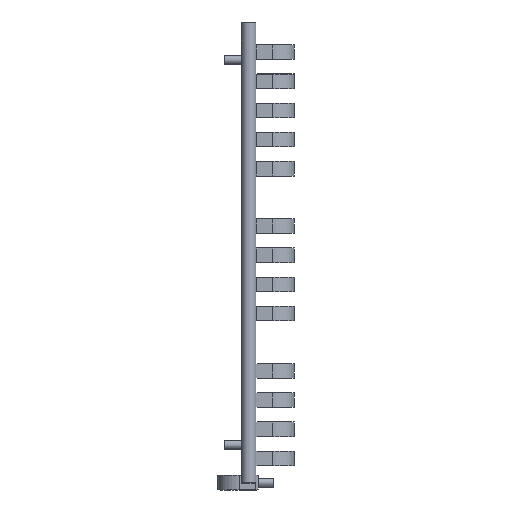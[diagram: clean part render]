
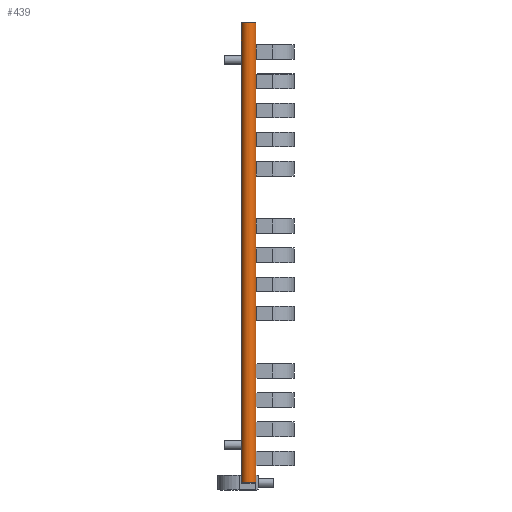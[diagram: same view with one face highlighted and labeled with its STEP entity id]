
A CAD part, left-side view. The second image highlights one B-rep face of the part: STEP entity #439.
In plain terms, the highlighted cylindrical face has radius 15 mm (diameter 30 mm), a partial arc.
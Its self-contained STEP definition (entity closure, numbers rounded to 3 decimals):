
#439 = ADVANCED_FACE( '', ( #681 ), #682, .T. );
#681 = FACE_OUTER_BOUND( '', #1070, .T. );
#682 = CYLINDRICAL_SURFACE( '', #1071, 15. );
#1070 = EDGE_LOOP( '', ( #1701, #1702, #1703, #1704 ) );
#1071 = AXIS2_PLACEMENT_3D( '', #1705, #1706, #1707 );
#1701 = ORIENTED_EDGE( '', *, *, #2892, .F. );
#1702 = ORIENTED_EDGE( '', *, *, #2749, .F. );
#1703 = ORIENTED_EDGE( '', *, *, #2893, .T. );
#1704 = ORIENTED_EDGE( '', *, *, #2739, .T. );
#1705 = CARTESIAN_POINT( '', ( 25., 15., 946. ) );
#1706 = DIRECTION( '', ( 0., 0., -1. ) );
#1707 = DIRECTION( '', ( -1., 0., 0. ) );
#2739 = EDGE_CURVE( '', #3191, #3188, #3192, .T. );
#2749 = EDGE_CURVE( '', #3209, #3205, #3211, .T. );
#2892 = EDGE_CURVE( '', #3205, #3188, #3462, .T. );
#2893 = EDGE_CURVE( '', #3209, #3191, #3463, .T. );
#3188 = VERTEX_POINT( '', #3920 );
#3191 = VERTEX_POINT( '', #3924 );
#3192 = LINE( '', #3925, #3926 );
#3205 = VERTEX_POINT( '', #3945 );
#3209 = VERTEX_POINT( '', #3951 );
#3211 = LINE( '', #3954, #3955 );
#3462 = CIRCLE( '', #4346, 15. );
#3463 = CIRCLE( '', #4347, 15. );
#3920 = CARTESIAN_POINT( '', ( 25., 0., 0. ) );
#3924 = CARTESIAN_POINT( '', ( 25., 0., 946. ) );
#3925 = CARTESIAN_POINT( '', ( 25., 0., 946. ) );
#3926 = VECTOR( '', #5059, 1000. );
#3945 = CARTESIAN_POINT( '', ( 25., 30., 0. ) );
#3951 = CARTESIAN_POINT( '', ( 25., 30., 946. ) );
#3954 = CARTESIAN_POINT( '', ( 25., 30., 946. ) );
#3955 = VECTOR( '', #5069, 1000. );
#4346 = AXIS2_PLACEMENT_3D( '', #5216, #5217, #5218 );
#4347 = AXIS2_PLACEMENT_3D( '', #5219, #5220, #5221 );
#5059 = DIRECTION( '', ( 0., 0., -1. ) );
#5069 = DIRECTION( '', ( 0., 0., -1. ) );
#5216 = CARTESIAN_POINT( '', ( 25., 15., 0. ) );
#5217 = DIRECTION( '', ( 0., 0., -1. ) );
#5218 = DIRECTION( '', ( -1., 0., 0. ) );
#5219 = CARTESIAN_POINT( '', ( 25., 15., 946. ) );
#5220 = DIRECTION( '', ( 0., 0., -1. ) );
#5221 = DIRECTION( '', ( -1., 0., 0. ) );
